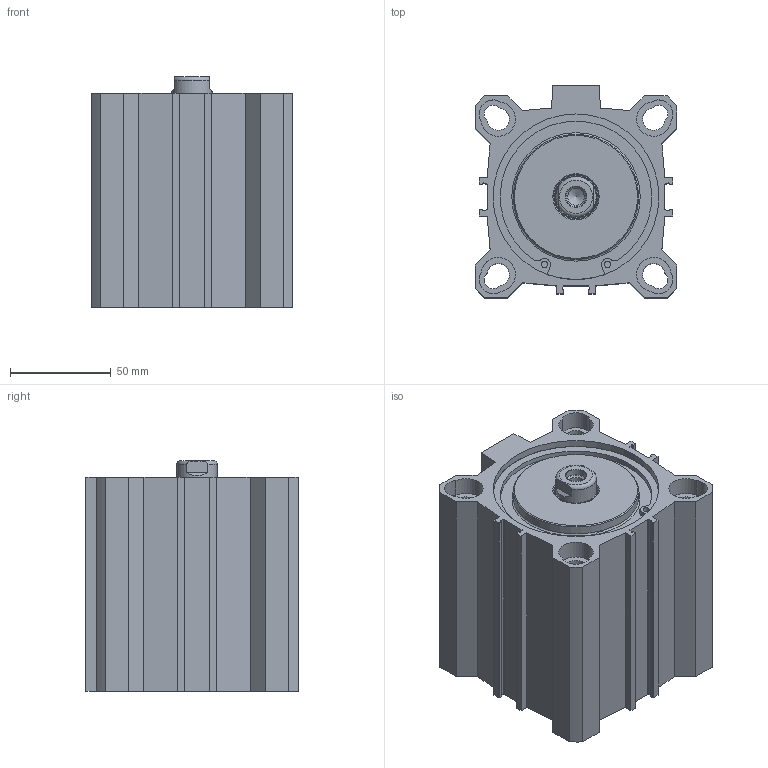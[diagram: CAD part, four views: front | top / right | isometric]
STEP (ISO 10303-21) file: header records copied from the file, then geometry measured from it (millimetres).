
FILE_DESCRIPTION(/* description */ ('Unknown'),/* implementation_level */ '2;1');
FILE_NAME(/* name */ 'FEN 80_50',/* time_stamp */ '2026-05-11T14:29:48+02:00',/* author */ ('Unknown'),/* organization */ ('Unknown'),/* preprocessor_version */ 'ST-DEVELOPER v18.102',/* originating_system */ 'Solid Edge',/* authorisation */ 'Unknown');
FILE_SCHEMA (('AUTOMOTIVE_DESIGN {1 0 10303 214 3 1 1}'));
Length unit declared in the file: millimetre
Products named in the file (5): FEN 80_50; Kolbenstange; Profilrohr; Kit_1; Kit_2
Assembly tree (4 placements, depth 2):
  FEN 80_50
    Kolbenstange
    Profilrohr
    Kit_1
    Kit_2
Bounding box: 100 x 105 x 114 mm (x, y, z)
Volume: 595185.9 mm3; surface area: 158406.9 mm2
Topology: 4 solids, 4 shells, 238 faces, 585 edges, 378 vertices
Faces by surface type: plane 107, cylinder 96, cone 25, torus 10
Full cylindrical faces by diameter (mm): 3 x4, 4.3 x2, 8.376 x2, 10.25 x1, 11.445 x4, 20 x1, 20.6 x1, 21.9 x1, 23 x1, 24.8 x1, 25 x1, 62 x2, 80 x2, 80.2 x1, 81.7 x4, 82.1 x2, 85.6 x2
Entity records: 8485 total; most frequent: CARTESIAN_POINT 1235, DIRECTION 1204, ORIENTED_EDGE 1008, EDGE_CURVE 504, AXIS2_PLACEMENT_3D 467, VERTEX_POINT 363, FACE_BOUND 343, EDGE_LOOP 342
